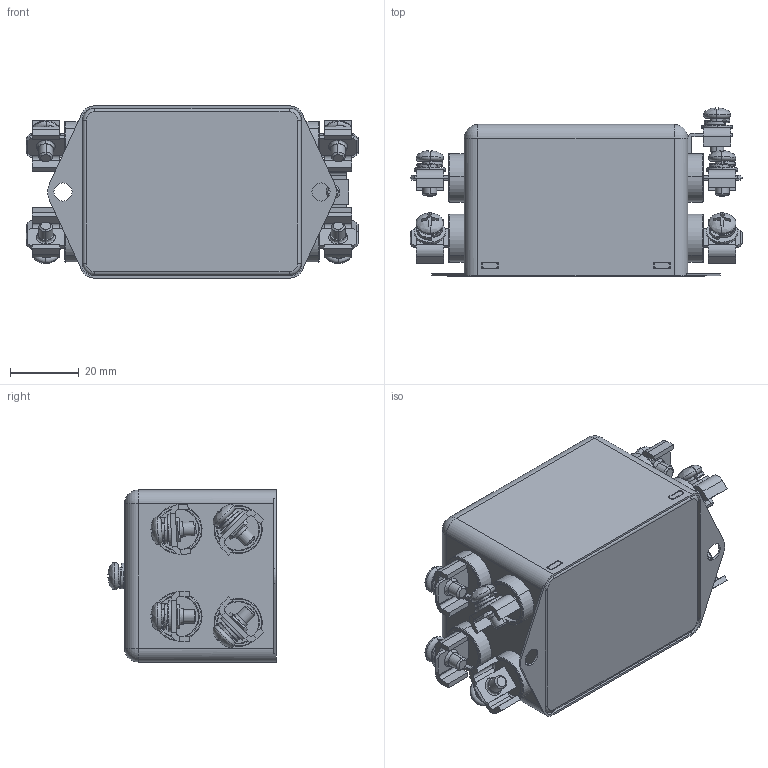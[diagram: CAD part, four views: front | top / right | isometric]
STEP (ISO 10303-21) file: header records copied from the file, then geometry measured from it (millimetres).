
FILE_DESCRIPTION (( 'STEP AP214' ), '1' );
FILE_NAME ('NF-4-20-SD.STEP', '2017-05-10T11:15:58', ( '' ), ( '' ), 'SwSTEP 2.0', 'SolidWorks 2017', '' );
FILE_SCHEMA (( 'AUTOMOTIVE_DESIGN' ));
Length unit declared in the file: millimetre
Products named in the file (8): Kreuzschlitzschraube M4; Federring M4; Unterlegscheibe M4; Klemmbügel; Anschluss; NF-4-20-SD_Gehäuse; NF-4-20-SD_Boden; NF-4-20-SD
Assembly tree (46 placements, depth 2):
  NF-4-20-SD
    NF-4-20-SD_Boden
    NF-4-20-SD_Gehäuse
    Anschluss  x8
    Klemmbügel  x9
    Unterlegscheibe M4  x9
    Federring M4  x9
    Kreuzschlitzschraube M4  x9
Bounding box: 96.5 x 48.84 x 50 mm (x, y, z)
Volume: 19637.7 mm3; surface area: 48333.4 mm2
Topology: 46 solids, 46 shells, 1116 faces, 2547 edges, 1536 vertices
Faces by surface type: plane 500, cylinder 336, bspline 124, sphere 80, torus 58, cone 18
Entity records: 10763 total; most frequent: CARTESIAN_POINT 3247, DIRECTION 1550, ORIENTED_EDGE 1380, EDGE_CURVE 690, AXIS2_PLACEMENT_3D 587, VERTEX_POINT 430, LINE 376, VECTOR 376
